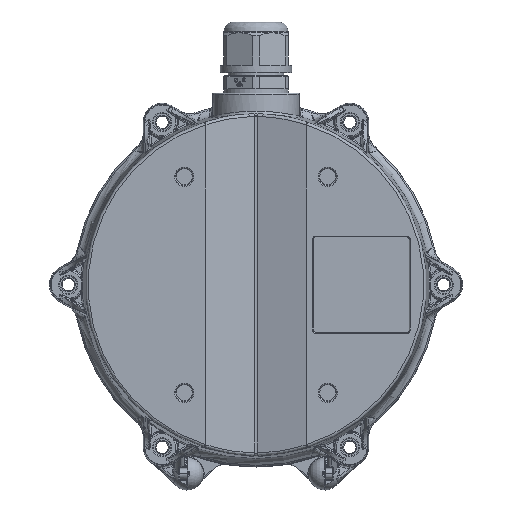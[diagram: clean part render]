
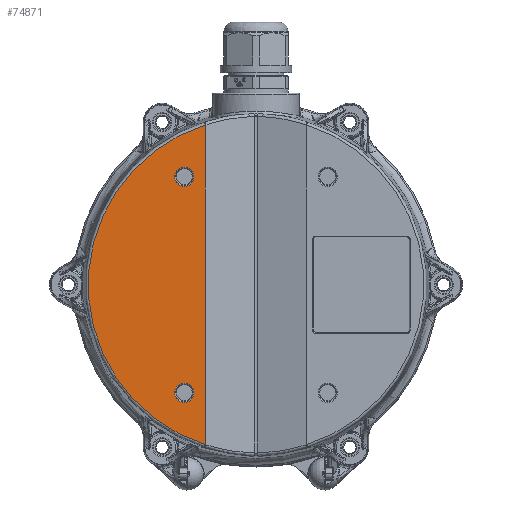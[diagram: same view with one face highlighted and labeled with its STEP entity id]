
A CAD part, front view. The second image highlights one B-rep face of the part: STEP entity #74871.
In plain terms, the highlighted planar face has unit normal (0, -1, 0).
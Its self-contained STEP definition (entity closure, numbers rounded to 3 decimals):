
#821 = CIRCLE ( 'NONE', #9573, 3.55 ) ;
#3710 = EDGE_LOOP ( 'NONE', ( #51676, #92695 ) ) ;
#5813 = CARTESIAN_POINT ( 'NONE',  ( -26.533, -40., -43.55 ) ) ;
#6278 = VERTEX_POINT ( 'NONE', #5813 ) ;
#7515 = DIRECTION ( 'NONE',  ( 0., -1., 0. ) ) ;
#9573 = AXIS2_PLACEMENT_3D ( 'NONE', #119788, #96758, #88582 ) ;
#11508 = VERTEX_POINT ( 'NONE', #26297 ) ;
#15352 = CARTESIAN_POINT ( 'NONE',  ( -18.792, -40., 0. ) ) ;
#15631 = CARTESIAN_POINT ( 'NONE',  ( -26.533, -40., 36.45 ) ) ;
#21617 = ORIENTED_EDGE ( 'NONE', *, *, #84401, .T. ) ;
#23341 = FACE_BOUND ( 'NONE', #49171, .T. ) ;
#24603 = DIRECTION ( 'NONE',  ( 0., 1., 0. ) ) ;
#25359 = DIRECTION ( 'NONE',  ( 0., 1., 0. ) ) ;
#26297 = CARTESIAN_POINT ( 'NONE',  ( -26.533, -40., -36.45 ) ) ;
#26425 = ORIENTED_EDGE ( 'NONE', *, *, #98811, .F. ) ;
#31180 = AXIS2_PLACEMENT_3D ( 'NONE', #128510, #25359, #35569 ) ;
#33387 = EDGE_CURVE ( 'NONE', #101511, #64478, #821, .T. ) ;
#35569 = DIRECTION ( 'NONE',  ( 0., 0., 1. ) ) ;
#41924 = CIRCLE ( 'NONE', #87436, 3.55 ) ;
#42951 = ORIENTED_EDGE ( 'NONE', *, *, #33387, .T. ) ;
#43069 = CARTESIAN_POINT ( 'NONE',  ( -26.533, -40., 43.55 ) ) ;
#45747 = PLANE ( 'NONE',  #31180 ) ;
#46147 = CIRCLE ( 'NONE', #130611, 62.137 ) ;
#48910 = DIRECTION ( 'NONE',  ( 0., 0., 1. ) ) ;
#49171 = EDGE_LOOP ( 'NONE', ( #26425, #128597 ) ) ;
#51676 = ORIENTED_EDGE ( 'NONE', *, *, #128201, .T. ) ;
#53017 = DIRECTION ( 'NONE',  ( 0., 0., 1. ) ) ;
#58667 = CARTESIAN_POINT ( 'NONE',  ( -18.792, -40., -59.228 ) ) ;
#59437 = LINE ( 'NONE', #15352, #125783 ) ;
#63934 = VERTEX_POINT ( 'NONE', #58667 ) ;
#64478 = VERTEX_POINT ( 'NONE', #15631 ) ;
#64785 = AXIS2_PLACEMENT_3D ( 'NONE', #108079, #24603, #107419 ) ;
#74871 = ADVANCED_FACE ( 'NONE', ( #116304, #86433, #23341 ), #45747, .F. ) ;
#79752 = DIRECTION ( 'NONE',  ( 0., 0., 1. ) ) ;
#79889 = CIRCLE ( 'NONE', #64785, 3.55 ) ;
#82180 = DIRECTION ( 'NONE',  ( 0., -1., 0. ) ) ;
#82996 = DIRECTION ( 'NONE',  ( 0., -1., 0. ) ) ;
#84401 = EDGE_CURVE ( 'NONE', #64478, #101511, #79889, .T. ) ;
#86433 = FACE_OUTER_BOUND ( 'NONE', #3710, .T. ) ;
#87436 = AXIS2_PLACEMENT_3D ( 'NONE', #93027, #82180, #53017 ) ;
#88582 = DIRECTION ( 'NONE',  ( 0., 0., 1. ) ) ;
#88640 = EDGE_LOOP ( 'NONE', ( #42951, #21617 ) ) ;
#89689 = EDGE_CURVE ( 'NONE', #63934, #119746, #59437, .T. ) ;
#92695 = ORIENTED_EDGE ( 'NONE', *, *, #89689, .T. ) ;
#93027 = CARTESIAN_POINT ( 'NONE',  ( -26.533, -40., -40. ) ) ;
#96442 = EDGE_CURVE ( 'NONE', #6278, #11508, #132992, .T. ) ;
#96758 = DIRECTION ( 'NONE',  ( 0., 1., 0. ) ) ;
#98811 = EDGE_CURVE ( 'NONE', #11508, #6278, #41924, .T. ) ;
#101511 = VERTEX_POINT ( 'NONE', #43069 ) ;
#107170 = CARTESIAN_POINT ( 'NONE',  ( -18.792, -40., 59.228 ) ) ;
#107419 = DIRECTION ( 'NONE',  ( 0., 0., 1. ) ) ;
#108079 = CARTESIAN_POINT ( 'NONE',  ( -26.533, -40., 40. ) ) ;
#109176 = AXIS2_PLACEMENT_3D ( 'NONE', #110638, #7515, #48910 ) ;
#110638 = CARTESIAN_POINT ( 'NONE',  ( -26.533, -40., -40. ) ) ;
#116304 = FACE_BOUND ( 'NONE', #88640, .T. ) ;
#119746 = VERTEX_POINT ( 'NONE', #107170 ) ;
#119788 = CARTESIAN_POINT ( 'NONE',  ( -26.533, -40., 40. ) ) ;
#124408 = DIRECTION ( 'NONE',  ( 0., 0., 1. ) ) ;
#125783 = VECTOR ( 'NONE', #79752, 1000. ) ;
#128201 = EDGE_CURVE ( 'NONE', #119746, #63934, #46147, .T. ) ;
#128510 = CARTESIAN_POINT ( 'NONE',  ( 0., -40., 0. ) ) ;
#128597 = ORIENTED_EDGE ( 'NONE', *, *, #96442, .F. ) ;
#130611 = AXIS2_PLACEMENT_3D ( 'NONE', #133300, #82996, #124408 ) ;
#132992 = CIRCLE ( 'NONE', #109176, 3.55 ) ;
#133300 = CARTESIAN_POINT ( 'NONE',  ( 0., -40., 0. ) ) ;
